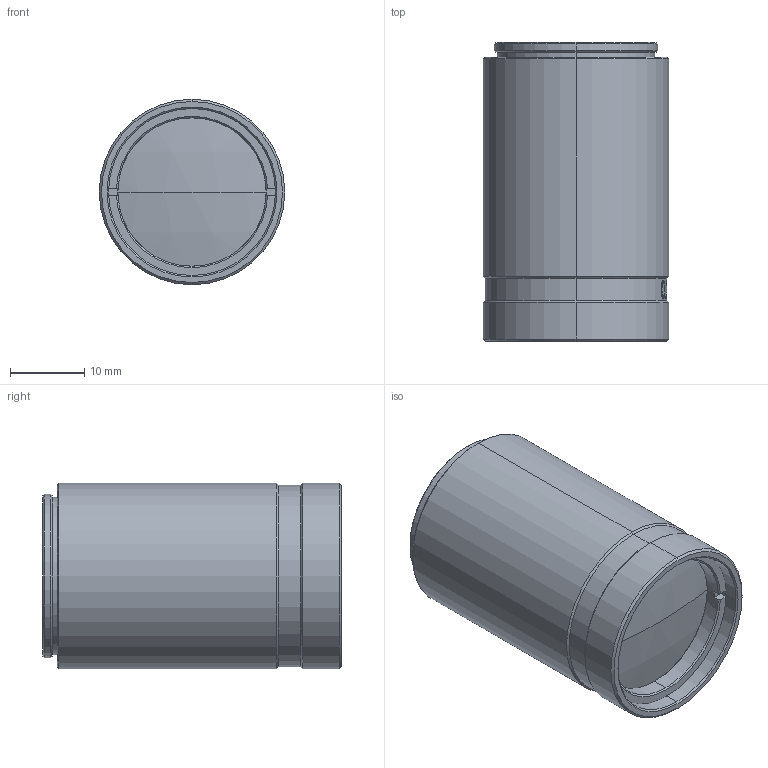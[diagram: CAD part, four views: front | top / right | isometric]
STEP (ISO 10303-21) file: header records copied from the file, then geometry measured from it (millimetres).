
FILE_DESCRIPTION (( 'STEP AP203' ), '1' );
FILE_NAME ('RK-Z65F027.STEP', '2024-12-16T09:26:08', ( 'Windows 蚚誧' ), ( 'Organization' ), 'SwSTEP 2.0', 'SolidWorks 2018', '' );
FILE_SCHEMA (( 'CONFIG_CONTROL_DESIGN' ));
Length unit declared in the file: millimetre
Products named in the file (1): RK-Z65F027
Bounding box: 25 x 40.29 x 25 mm (x, y, z)
Volume: 6848 mm3; surface area: 7637.6 mm2
Topology: 3 solids, 3 shells, 143 faces, 339 edges, 214 vertices
Faces by surface type: cone 38, bspline 35, plane 34, cylinder 32, sphere 4
Entity records: 7868 total; most frequent: CARTESIAN_POINT 4720, ORIENTED_EDGE 678, DIRECTION 561, EDGE_CURVE 339, AXIS2_PLACEMENT_3D 233, VERTEX_POINT 214, EDGE_LOOP 159, FACE_OUTER_BOUND 143
